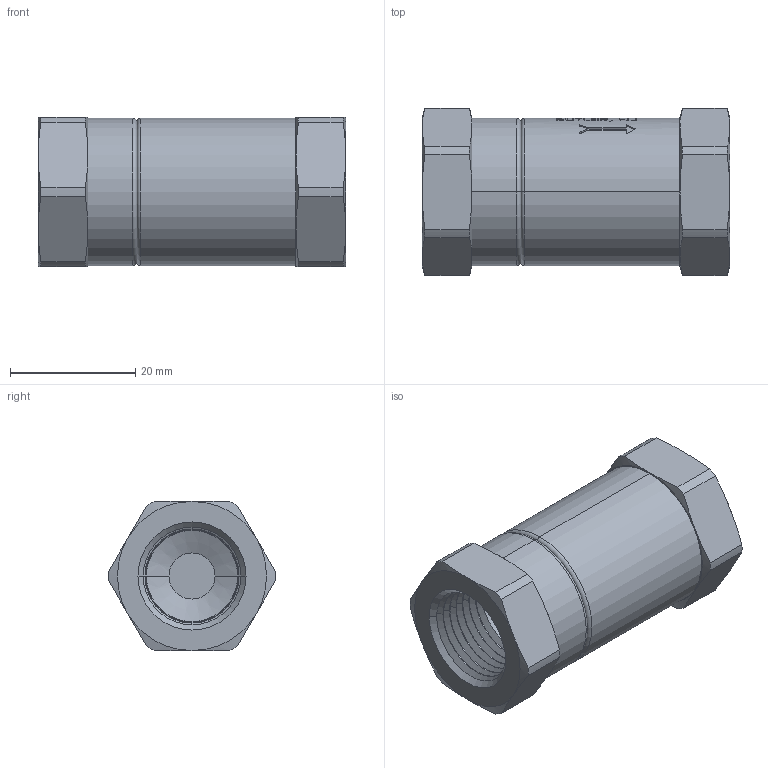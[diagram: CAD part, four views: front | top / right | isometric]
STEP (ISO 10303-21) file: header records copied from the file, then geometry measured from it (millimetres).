
FILE_DESCRIPTION (( 'STEP AP203' ), '1' );
FILE_NAME ('DCV-375B.STEP', '2019-07-25T12:48:56', ( '' ), ( '' ), 'SwSTEP 2.0', 'SolidWorks 2011', '' );
FILE_SCHEMA (( 'CONFIG_CONTROL_DESIGN' ));
Length unit declared in the file: inch
Products named in the file (2): DCV-375B; Part8^DCV-375B_CM
Assembly tree (1 placements, depth 2):
  DCV-375B
    Part8^DCV-375B_CM
Bounding box: 49.05 x 26.67 x 23.8 mm (x, y, z)
Volume: 16347.4 mm3; surface area: 7024.2 mm2
Topology: 1 solids, 1 shells, 404 faces, 982 edges, 605 vertices
Faces by surface type: plane 147, cone 140, bspline 70, cylinder 43, torus 4
Entity records: 16480 total; most frequent: CARTESIAN_POINT 7385, ORIENTED_EDGE 1960, DIRECTION 1676, EDGE_CURVE 980, AXIS2_PLACEMENT_3D 644, VERTEX_POINT 605, EDGE_LOOP 431, FACE_OUTER_BOUND 404
